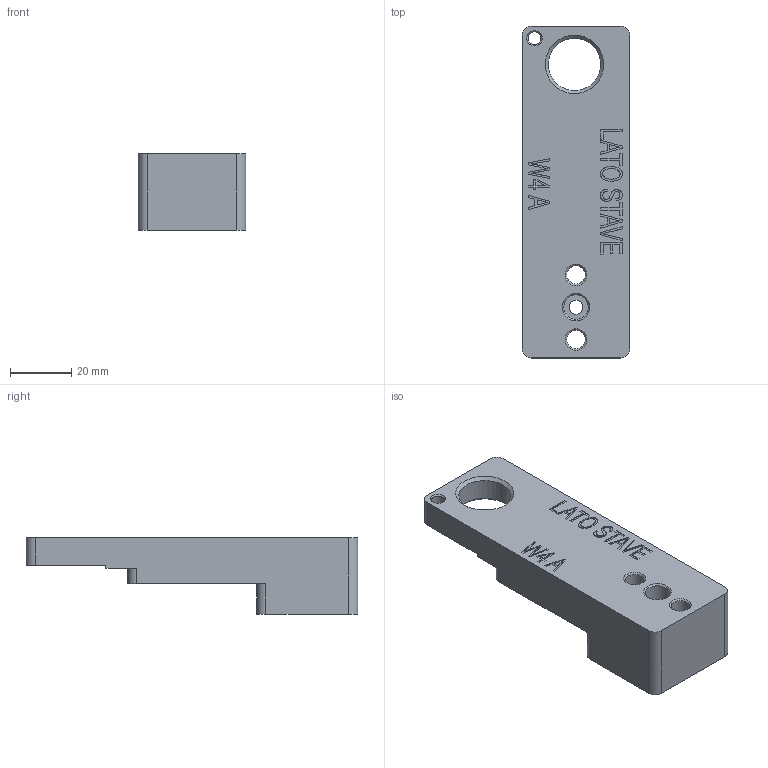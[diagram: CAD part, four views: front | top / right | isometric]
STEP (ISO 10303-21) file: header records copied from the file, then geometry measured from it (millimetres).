
FILE_DESCRIPTION(/* description */ (''),/* implementation_level */ '2;1');
FILE_NAME(/* name */ 'WHEELS-INSERT.13.stp',/* time_stamp */ '2018-09-20T14:43:32+02:00',/* author */ (''),/* organization */ (''),/* preprocessor_version */ 'ST-DEVELOPER v16.7',/* originating_system */ 'SIEMENS PLM Software NX 12.0',/* authorisation */ '');
FILE_SCHEMA (('AUTOMOTIVE_DESIGN { 1 0 10303 214 3 1 1 1 }'));
Length unit declared in the file: millimetre
Products named in the file (1): bez9B988210ctbr
Bounding box: 35 x 108 x 25 mm (x, y, z)
Volume: 57092.6 mm3; surface area: 13996.4 mm2
Topology: 1 solids, 1 shells, 165 faces, 430 edges, 285 vertices
Faces by surface type: plane 119, extrusion 22, cylinder 14, cone 10
Full cylindrical faces by diameter (mm): 4.2 x1, 4.5 x1, 6 x2, 8 x1, 17 x1
Entity records: 5551 total; most frequent: CARTESIAN_POINT 1941, ORIENTED_EDGE 818, DIRECTION 535, EDGE_CURVE 409, VERTEX_POINT 280, B_SPLINE_CURVE_WITH_KNOTS 244, EDGE_LOOP 209, AXIS2_PLACEMENT_3D 182
